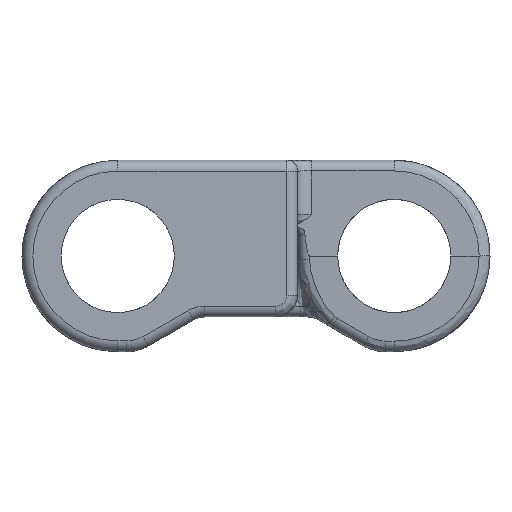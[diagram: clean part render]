
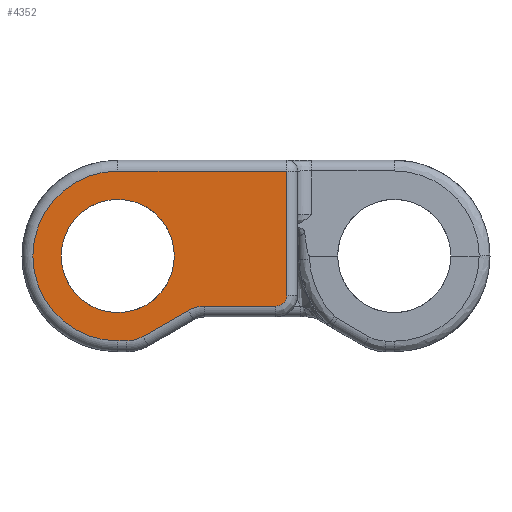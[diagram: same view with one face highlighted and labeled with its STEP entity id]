
A CAD part, left-side view. The second image highlights one B-rep face of the part: STEP entity #4352.
In plain terms, the highlighted planar face has unit normal (-1, 0, 0).
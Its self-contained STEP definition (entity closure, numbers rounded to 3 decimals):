
#13=CARTESIAN_POINT('',(0.,6.35,0.));
#14=DIRECTION('',(-1.,0.,0.));
#15=DIRECTION('',(0.,-1.,0.));
#16=AXIS2_PLACEMENT_3D('',#13,#14,#15);
#18=CARTESIAN_POINT('',(0.,6.35,0.));
#19=DIRECTION('',(-1.,0.,0.));
#20=DIRECTION('',(0.,1.,0.));
#21=AXIS2_PLACEMENT_3D('',#18,#19,#20);
#23=DIRECTION('',(0.,1.,0.));
#24=VECTOR('',#23,7.76);
#25=CARTESIAN_POINT('',(0.,-1.41,3.9));
#26=LINE('',#25,#24);
#27=DIRECTION('',(0.,0.,1.));
#28=VECTOR('',#27,5.7);
#29=CARTESIAN_POINT('',(0.,-1.41,-1.8));
#30=LINE('',#29,#28);
#31=CARTESIAN_POINT('',(0.,-0.91,-1.8));
#32=DIRECTION('',(-1.,0.,0.));
#33=DIRECTION('',(0.,0.,-1.));
#34=AXIS2_PLACEMENT_3D('',#31,#32,#33);
#36=DIRECTION('',(0.,-1.,0.));
#37=VECTOR('',#36,3.272);
#38=CARTESIAN_POINT('',(0.,2.362,-2.3));
#39=LINE('',#38,#37);
#40=CARTESIAN_POINT('',(0.,2.362,-3.8));
#41=DIRECTION('',(1.,0.,0.));
#42=DIRECTION('',(0.,0.5,0.866));
#43=AXIS2_PLACEMENT_3D('',#40,#41,#42);
#45=DIRECTION('',(0.,-0.866,0.5));
#46=VECTOR('',#45,2.396);
#47=CARTESIAN_POINT('',(0.,5.187,-3.699));
#48=LINE('',#47,#46);
#49=CARTESIAN_POINT('',(0.,5.937,-2.4));
#50=DIRECTION('',(-1.,0.,0.));
#51=DIRECTION('',(0.,0.,-1.));
#52=AXIS2_PLACEMENT_3D('',#49,#50,#51);
#54=DIRECTION('',(0.,-1.,0.));
#55=VECTOR('',#54,0.413);
#56=CARTESIAN_POINT('',(0.,6.35,-3.9));
#57=LINE('',#56,#55);
#58=CARTESIAN_POINT('',(0.,6.35,0.));
#59=DIRECTION('',(-1.,0.,0.));
#60=DIRECTION('',(0.,0.,1.));
#61=AXIS2_PLACEMENT_3D('',#58,#59,#60);
#3854=CARTESIAN_POINT('',(0.,3.75,0.));
#3855=CARTESIAN_POINT('',(0.,8.95,0.));
#3856=VERTEX_POINT('',#3854);
#3857=VERTEX_POINT('',#3855);
#4114=CARTESIAN_POINT('',(0.,-1.41,3.9));
#4115=CARTESIAN_POINT('',(0.,6.35,3.9));
#4116=VERTEX_POINT('',#4114);
#4117=VERTEX_POINT('',#4115);
#4122=CARTESIAN_POINT('',(0.,6.35,-3.9));
#4123=VERTEX_POINT('',#4122);
#4126=CARTESIAN_POINT('',(0.,5.937,-3.9));
#4127=VERTEX_POINT('',#4126);
#4130=CARTESIAN_POINT('',(0.,5.187,-3.699));
#4131=VERTEX_POINT('',#4130);
#4134=CARTESIAN_POINT('',(0.,3.112,-2.501));
#4135=VERTEX_POINT('',#4134);
#4138=CARTESIAN_POINT('',(0.,2.362,-2.3));
#4139=VERTEX_POINT('',#4138);
#4142=CARTESIAN_POINT('',(0.,-0.91,-2.3));
#4143=VERTEX_POINT('',#4142);
#4146=CARTESIAN_POINT('',(0.,-1.41,-1.8));
#4147=VERTEX_POINT('',#4146);
#4321=CARTESIAN_POINT('',(0.,0.,0.));
#4322=DIRECTION('',(1.,0.,0.));
#4323=DIRECTION('',(0.,-1.,0.));
#4324=AXIS2_PLACEMENT_3D('',#4321,#4322,#4323);
#4325=PLANE('',#4324);
#4327=ORIENTED_EDGE('',*,*,#4326,.F.);
#4329=ORIENTED_EDGE('',*,*,#4328,.F.);
#4331=ORIENTED_EDGE('',*,*,#4330,.F.);
#4333=ORIENTED_EDGE('',*,*,#4332,.F.);
#4335=ORIENTED_EDGE('',*,*,#4334,.F.);
#4337=ORIENTED_EDGE('',*,*,#4336,.F.);
#4339=ORIENTED_EDGE('',*,*,#4338,.F.);
#4341=ORIENTED_EDGE('',*,*,#4340,.F.);
#4343=ORIENTED_EDGE('',*,*,#4342,.F.);
#4344=EDGE_LOOP('',(#4327,#4329,#4331,#4333,#4335,#4337,#4339,#4341,#4343));
#4345=FACE_OUTER_BOUND('',#4344,.F.);
#4347=ORIENTED_EDGE('',*,*,#4346,.T.);
#4349=ORIENTED_EDGE('',*,*,#4348,.T.);
#4350=EDGE_LOOP('',(#4347,#4349));
#4351=FACE_BOUND('',#4350,.F.);
#17=CIRCLE('',#16,2.6);
#22=CIRCLE('',#21,2.6);
#35=CIRCLE('',#34,0.5);
#44=CIRCLE('',#43,1.5);
#53=CIRCLE('',#52,1.5);
#62=CIRCLE('',#61,3.9);
#4326=EDGE_CURVE('',#4116,#4117,#26,.T.);
#4328=EDGE_CURVE('',#4147,#4116,#30,.T.);
#4330=EDGE_CURVE('',#4143,#4147,#35,.T.);
#4332=EDGE_CURVE('',#4139,#4143,#39,.T.);
#4334=EDGE_CURVE('',#4135,#4139,#44,.T.);
#4336=EDGE_CURVE('',#4131,#4135,#48,.T.);
#4338=EDGE_CURVE('',#4127,#4131,#53,.T.);
#4340=EDGE_CURVE('',#4123,#4127,#57,.T.);
#4342=EDGE_CURVE('',#4117,#4123,#62,.T.);
#4346=EDGE_CURVE('',#3856,#3857,#17,.T.);
#4348=EDGE_CURVE('',#3857,#3856,#22,.T.);
#4352=ADVANCED_FACE('',(#4345,#4351),#4325,.F.);
